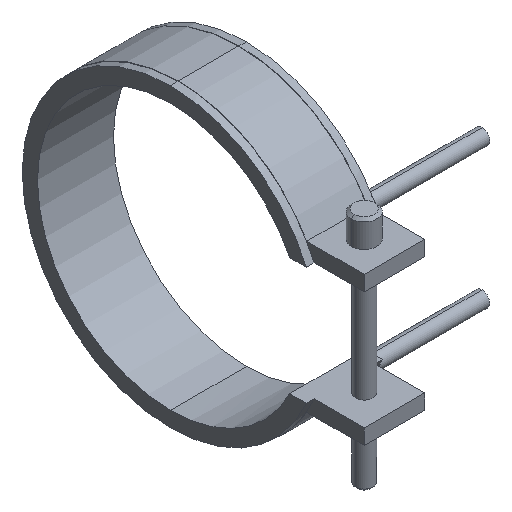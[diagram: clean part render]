
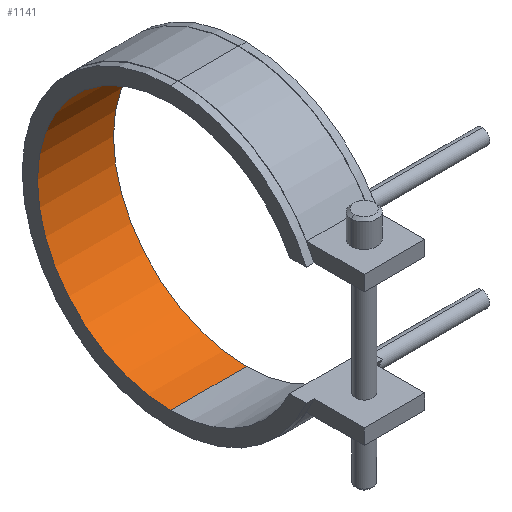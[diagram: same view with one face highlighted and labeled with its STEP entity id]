
A CAD part, isometric view. The second image highlights one B-rep face of the part: STEP entity #1141.
In plain terms, the highlighted cylindrical face has radius 35 mm (diameter 70 mm), a partial arc.
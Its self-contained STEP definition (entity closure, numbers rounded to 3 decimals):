
#822=CARTESIAN_POINT('Vertex',(-10.,0.,-35.)) ;
#829=CARTESIAN_POINT('Vertex',(10.,0.,-35.)) ;
#832=CARTESIAN_POINT('Line Origine',(10.,0.,-35.)) ;
#850=CARTESIAN_POINT('Axis2P3D Location',(-10.,0.,0.)) ;
#854=CARTESIAN_POINT('Vertex',(-10.,0.,35.)) ;
#911=CARTESIAN_POINT('Vertex',(10.,0.,35.)) ;
#921=CARTESIAN_POINT('Line Origine',(10.,0.,35.)) ;
#1012=CARTESIAN_POINT('Axis2P3D Location',(10.,0.,0.)) ;
#1130=CARTESIAN_POINT('Axis2P3D Location',(10.,0.,0.)) ;
#833=DIRECTION('Vector Direction',(1.,0.,0.)) ;
#851=DIRECTION('Axis2P3D Direction',(1.,0.,0.)) ;
#922=DIRECTION('Vector Direction',(1.,0.,0.)) ;
#1013=DIRECTION('Axis2P3D Direction',(1.,0.,0.)) ;
#1131=DIRECTION('Axis2P3D Direction',(1.,0.,-0.)) ;
#1132=DIRECTION('Axis2P3D XDirection',(0.,0.,-1.)) ;
#852=AXIS2_PLACEMENT_3D('Circle Axis2P3D',#850,#851,$) ;
#1014=AXIS2_PLACEMENT_3D('Circle Axis2P3D',#1012,#1013,$) ;
#1133=AXIS2_PLACEMENT_3D('Cylinder Axis2P3D',#1130,#1131,#1132) ;
#1136=ORIENTED_EDGE('',*,*,#1016,.T.) ;
#1137=ORIENTED_EDGE('',*,*,#925,.T.) ;
#1138=ORIENTED_EDGE('',*,*,#856,.F.) ;
#1139=ORIENTED_EDGE('',*,*,#836,.T.) ;
#834=VECTOR('Line Direction',#833,1.) ;
#923=VECTOR('Line Direction',#922,1.) ;
#1141=ADVANCED_FACE('14070020',(#1140),#1134,.F.) ;
#853=CIRCLE('generated circle',#852,35.) ;
#1015=CIRCLE('generated circle',#1014,35.) ;
#1134=CYLINDRICAL_SURFACE('generated cylinder',#1133,35.) ;
#836=EDGE_CURVE('',#823,#830,#835,.T.) ;
#856=EDGE_CURVE('',#823,#855,#853,.T.) ;
#925=EDGE_CURVE('',#912,#855,#924,.F.) ;
#1016=EDGE_CURVE('',#830,#912,#1015,.T.) ;
#1135=EDGE_LOOP('',(#1136,#1137,#1138,#1139)) ;
#1140=FACE_OUTER_BOUND('',#1135,.T.) ;
#835=LINE('Line',#832,#834) ;
#924=LINE('Line',#921,#923) ;
#823=VERTEX_POINT('',#822) ;
#830=VERTEX_POINT('',#829) ;
#855=VERTEX_POINT('',#854) ;
#912=VERTEX_POINT('',#911) ;
